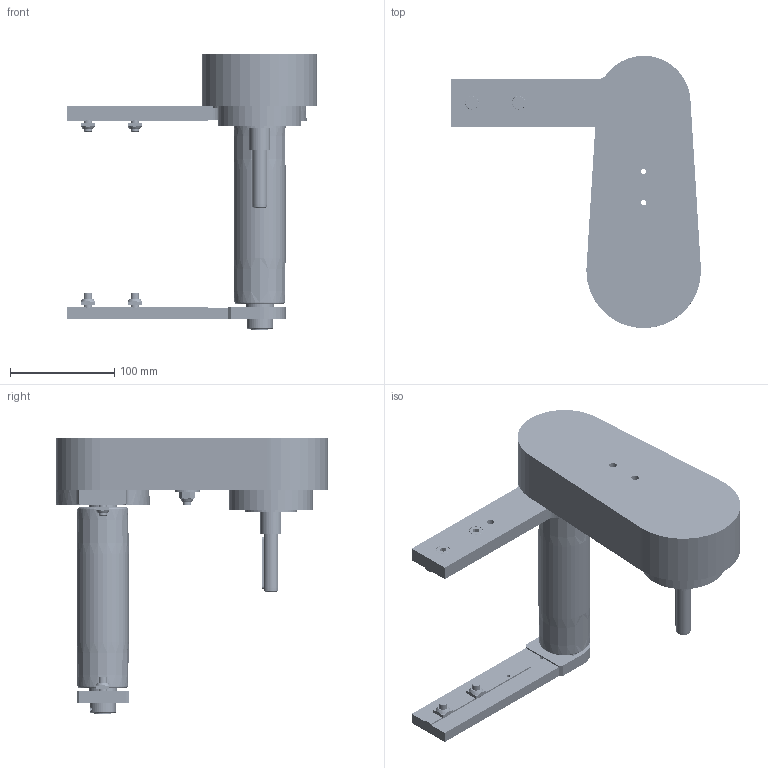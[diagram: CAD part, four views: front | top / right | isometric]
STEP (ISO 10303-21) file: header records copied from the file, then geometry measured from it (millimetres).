
FILE_DESCRIPTION (( 'STEP AP203' ), '1' );
FILE_NAME ('084.050.KTC.30.150.STEP', '2019-07-29T13:10:01', ( '' ), ( '' ), 'SwSTEP 2.0', 'SolidWorks 2018', '' );
FILE_SCHEMA (( 'CONFIG_CONTROL_DESIGN' ));
Length unit declared in the file: millimetre
Products named in the file (26): 084.810.004; 084.810.010; 084.811.004; 084.802.034_084.802.034; 084.810.005; Circlip DIN 471 - 8 x 0.8_Circlip DIN 471 - 8 x 0.8; 084.815.102_Default<A macchina>; 084.813.006; 084.809.003; CHIAVETTE_A 5x5x50 UNI 6604-69; 084.803.012; RONDELLE FASCIA LARGA UNI 6593_8.4x24 UNI 6593; 084.302.000 DADI ALUSIC 13x13_084.302.004; 084.807.002_084.807.002; 084.809.001; DADI ESAGONALI AUTOBLOCCANTI UNI 7473 INOX_M8 UNI 7473 INOX; 084.050.KTC.30.150; 084.803.014; CUSCINETTI A SFERE_608-2RS; 084.301.000 VITI ALUSIC_084.301.003; 084.813.001; 084.809.004; 084.802.017_084.802.017; 084.802.021; 084.810.001; 084.807.001_084.807.001
Assembly tree (34 placements, depth 3):
  084.050.KTC.30.150
    084.815.102_Default<A macchina>
    084.811.004
    084.813.001
    084.810.001  x2
    084.802.034_084.802.034
    084.802.017_084.802.017
    084.807.001_084.807.001
    084.807.002_084.807.002
    084.803.014  x2
    084.809.004
    084.813.006
    084.802.021
    084.803.012
    084.809.001
    084.809.003
    084.810.005
      084.810.010
      084.810.004
      CUSCINETTI A SFERE_608-2RS  x2
      Circlip DIN 471 - 8 x 0.8_Circlip DIN 471 - 8 x 0.8
      RONDELLE FASCIA LARGA UNI 6593_8.4x24 UNI 6593
      DADI ESAGONALI AUTOBLOCCANTI UNI 7473 INOX_M8 UNI 7473 INOX
    084.301.000 VITI ALUSIC_084.301.003  x4
    084.302.000 DADI ALUSIC 13x13_084.302.004  x4
    CHIAVETTE_A 5x5x50 UNI 6604-69
Bounding box: 240 x 261.5 x 266 mm (x, y, z)
Volume: 863380.2 mm3; surface area: 460001.6 mm2
Topology: 63 solids, 64 shells, 2916 faces, 6878 edges, 4397 vertices
Faces by surface type: cylinder 1439, plane 732, bspline 468, cone 174, torus 94, sphere 9
Entity records: 83345 total; most frequent: CARTESIAN_POINT 18784, DIRECTION 14023, ORIENTED_EDGE 12154, EDGE_CURVE 6077, AXIS2_PLACEMENT_3D 5927, VERTEX_POINT 3874, CIRCLE 3743, EDGE_LOOP 3193
